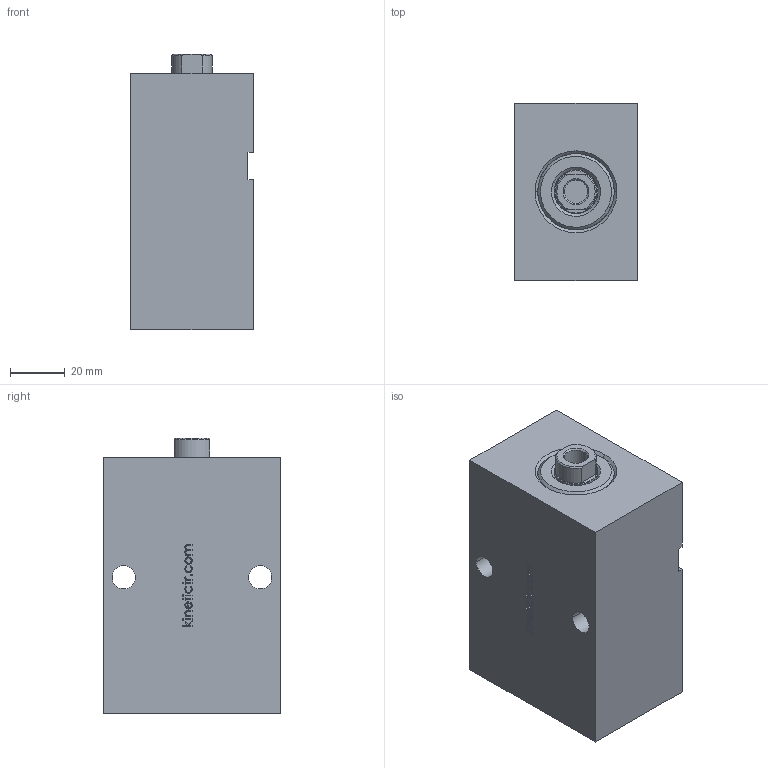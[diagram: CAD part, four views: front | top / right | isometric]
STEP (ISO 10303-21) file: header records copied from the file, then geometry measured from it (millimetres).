
FILE_DESCRIPTION (( 'STEP AP214' ), '1' );
FILE_NAME ('KBZ_11_25_16_50.STEP', '2019-09-11T19:14:39', ( '' ), ( '' ), 'SwSTEP 2.0', 'SolidWorks 2018', '' );
FILE_SCHEMA (( 'AUTOMOTIVE_DESIGN' ));
Length unit declared in the file: millimetre
Products named in the file (4): GOVDE; KBZ_11_25_16_50; MIL; KAPAK
Assembly tree (3 placements, depth 2):
  KBZ_11_25_16_50
    GOVDE
    KAPAK
    MIL
Bounding box: 45 x 65 x 101 mm (x, y, z)
Volume: 269444.3 mm3; surface area: 33644.3 mm2
Topology: 3 solids, 3 shells, 232 faces, 586 edges, 386 vertices
Faces by surface type: plane 117, bspline 69, cylinder 29, cone 17
Entity records: 10254 total; most frequent: CARTESIAN_POINT 4915, ORIENTED_EDGE 1172, DIRECTION 858, EDGE_CURVE 586, VERTEX_POINT 386, VECTOR 368, LINE 368, EDGE_LOOP 264
